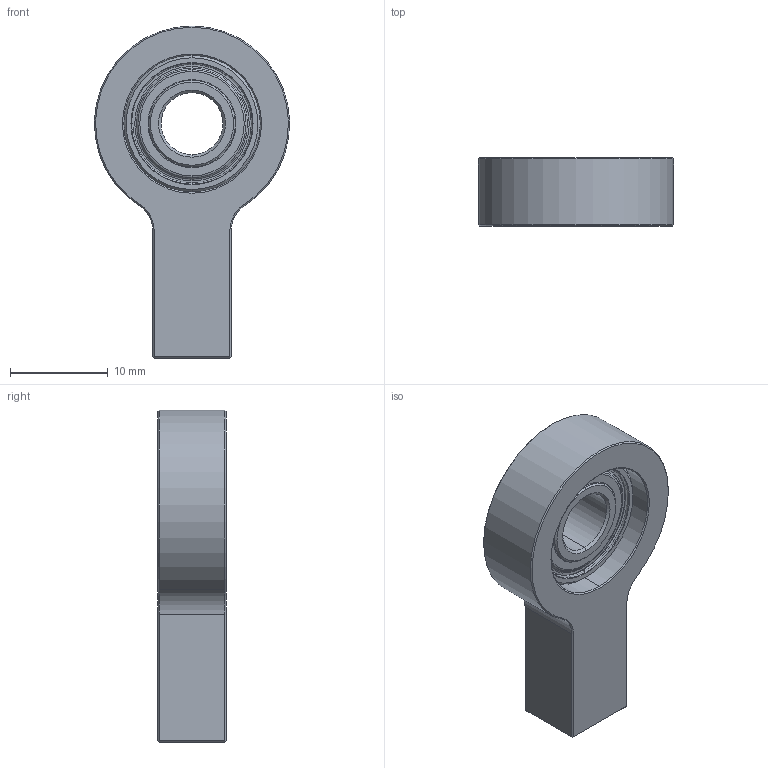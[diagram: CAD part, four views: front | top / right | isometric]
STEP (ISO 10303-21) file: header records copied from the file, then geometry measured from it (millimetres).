
FILE_DESCRIPTION (( 'STEP AP203' ), '1' );
FILE_NAME ('1605-0024-0250 Assembly.STEP', '2024-03-07T17:30:33', ( '' ), ( '' ), 'SwSTEP 2.0', 'SolidWorks 2016', '' );
FILE_SCHEMA (( 'CONFIG_CONTROL_DESIGN' ));
Length unit declared in the file: millimetre
Products named in the file (3): 1605-0024-0000; 1611-0514-0250; 1605-0024-0250 Assembly
Assembly tree (2 placements, depth 2):
  1605-0024-0250 Assembly
    1605-0024-0000
    1611-0514-0250
Bounding box: 19.99 x 7 x 34 mm (x, y, z)
Volume: 2343.6 mm3; surface area: 2551.2 mm2
Topology: 4 solids, 4 shells, 177 faces, 421 edges, 264 vertices
Faces by surface type: cylinder 85, cone 37, plane 33, torus 20, bspline 2
Entity records: 8099 total; most frequent: CARTESIAN_POINT 3910, ORIENTED_EDGE 838, DIRECTION 824, EDGE_CURVE 419, AXIS2_PLACEMENT_3D 336, VERTEX_POINT 264, EDGE_LOOP 195, ADVANCED_FACE 177
